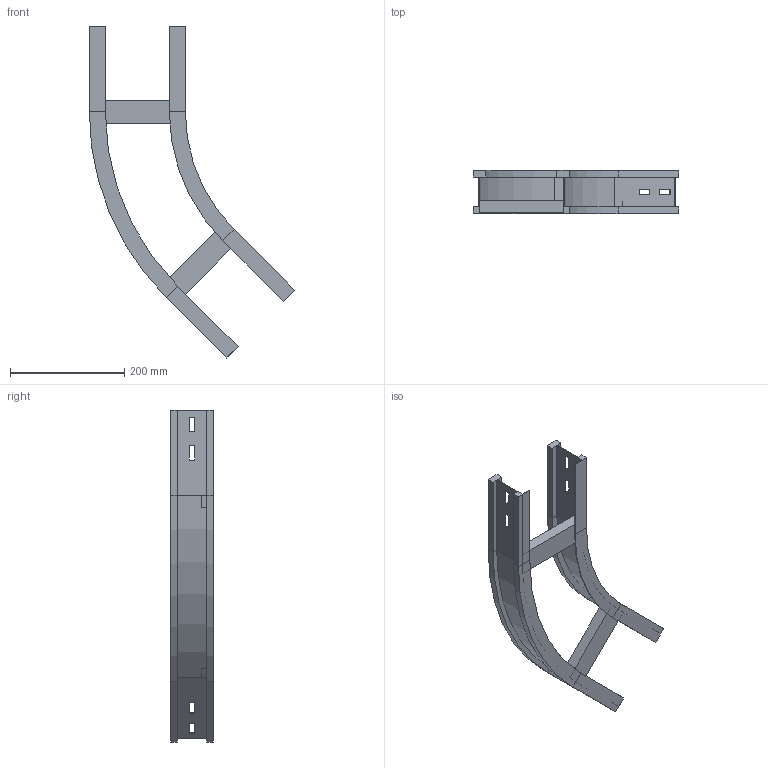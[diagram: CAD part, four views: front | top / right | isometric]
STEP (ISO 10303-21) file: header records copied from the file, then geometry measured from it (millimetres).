
FILE_DESCRIPTION (( 'STEP AP214' ), '1' );
FILE_NAME ('11S3C150.step', '2025-02-21T16:05:17', ( '' ), ( '' ), 'SwSTEP 2.0', 'SolidWorks 2023', '' );
FILE_SCHEMA (( 'AUTOMOTIVE_DESIGN' ));
Length unit declared in the file: millimetre
Products named in the file (4): LONGH.INTERNO 45°_H75_R300; 11S3C150; LONGH.ESTERNO 45°_H75_R300+150; TRAVERSINO_150
Assembly tree (4 placements, depth 2):
  11S3C150
    LONGH.INTERNO 45°_H75_R300
    LONGH.ESTERNO 45°_H75_R300+150
    TRAVERSINO_150  x2
Bounding box: 359.3 x 75 x 580.63 mm (x, y, z)
Volume: 821343.7 mm3; surface area: 331696 mm2
Topology: 4 solids, 4 shells, 120 faces, 288 edges, 176 vertices
Faces by surface type: plane 108, cylinder 12
Entity records: 3381 total; most frequent: CARTESIAN_POINT 565, ORIENTED_EDGE 552, DIRECTION 542, EDGE_CURVE 276, LINE 252, VECTOR 252, VERTEX_POINT 168, AXIS2_PLACEMENT_3D 145
